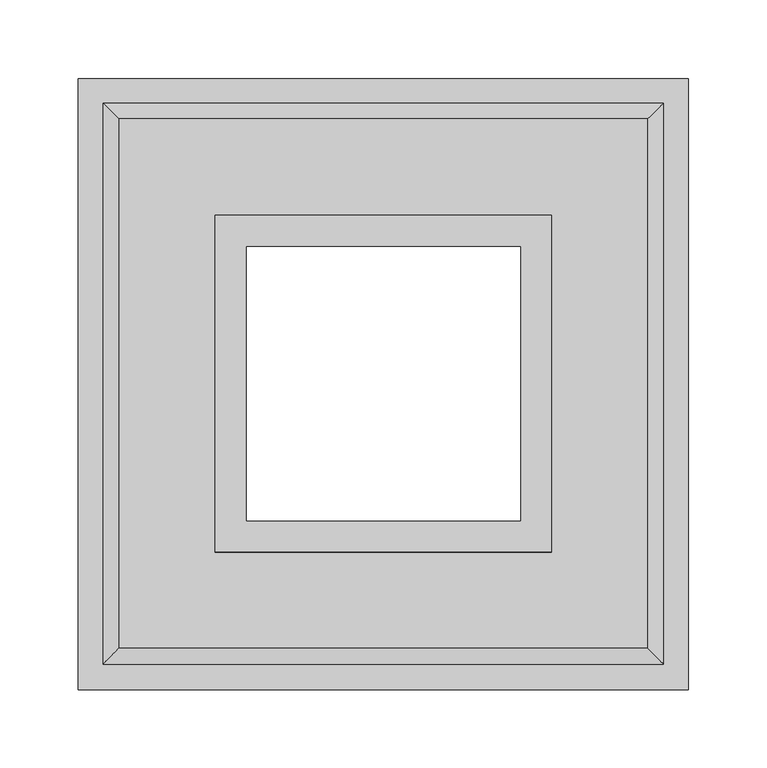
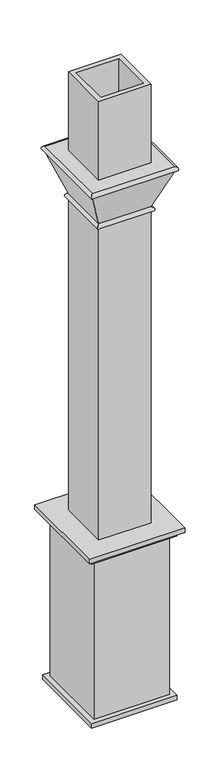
"""IFC4 building model written with IfcOpenShell, lengths in millimetres: column geometry, 构造柱外包装饰 : 构造柱外包装饰."""

from ifc_helpers import new_model, si_unit, frame, origin, place, context, project, spatial, ellipse_curve, source, transform, mapped, element, save
from ifc_brep_helpers import plane_surface, cylinder_surface, advanced_brep


def column_dc167576(model_context):
    return source(origin(), model_context, "Body", "AdvancedBrep", [
        advanced_brep(
        [(5146.6580578, -1101.483375, 2499.1446717), (5146.6580578, -1101.483375, -150.0), (5146.6580578, -1276.483375, -150.0), (5146.6580578, -1276.483375, 2499.1446717), (5166.6580578, -1081.483375, 600.0), (5166.6580578, -1081.483375, 1950.0), (5166.6580578, -1296.483375, 1950.0), (5166.6580578, -1296.483375, 600.0), (5254.1580578, -993.983375, 580.0), (5254.1580578, -993.983375, 600.0), (5254.1580578, -1383.983375, 600.0), (5254.1580578, -1383.983375, 580.0), (5234.1580578, -1013.983375, 560.0), (5234.1580578, -1013.983375, 580.0), (5234.1580578, -1363.983375, 580.0), (5234.1580578, -1363.983375, 560.0), (5214.1580578, -1033.983375, -130.0), (5214.1580578, -1033.983375, 560.0), (5214.1580578, -1343.983375, 560.0), (5214.1580578, -1343.983375, -130.0), (5234.1580578, -1013.983375, -150.0), (5234.1580578, -1013.983375, -130.0), (5234.1580578, -1363.983375, -130.0), (5234.1580578, -1363.983375, -150.0), (4971.6580578, -1276.483375, -150.0), (4971.6580578, -1276.483375, 2499.1446717), (4951.6580578, -1296.483375, 1950.0), (4951.6580578, -1296.483375, 600.0), (4864.1580578, -1383.983375, 600.0), (4864.1580578, -1383.983375, 580.0), (4884.1580578, -1363.983375, 580.0), (4884.1580578, -1363.983375, 560.0), (4904.1580578, -1343.983375, 560.0), (4904.1580578, -1343.983375, -130.0), (4884.1580578, -1363.983375, -130.0), (4884.1580578, -1363.983375, -150.0), (4971.6580578, -1101.483375, -150.0), (4971.6580578, -1101.483375, 2499.1446717), (4951.6580578, -1081.483375, 1950.0), (4951.6580578, -1081.483375, 600.0), (4864.1580578, -993.983375, 600.0), (4864.1580578, -993.983375, 580.0), (4884.1580578, -1013.983375, 580.0), (4884.1580578, -1013.983375, 560.0), (4904.1580578, -1033.983375, 560.0), (4904.1580578, -1033.983375, -130.0), (4884.1580578, -1013.983375, -130.0), (4884.1580578, -1013.983375, -150.0), (5166.6580578, -1081.483375, 2159.1446717), (5166.6580578, -1081.483375, 2499.1446717), (5166.6580578, -1296.483375, 2499.1446717), (5166.6580578, -1296.483375, 2159.1446717), (5228.2216836, -1019.9197492, 2139.1446717), (5228.2216836, -1019.9197492, 2159.1446717), (5228.2216836, -1358.0470008, 2159.1446717), (5228.2216836, -1358.0470008, 2139.1446717), (5166.6580578, -1081.483375, 1970.0), (5166.6580578, -1296.483375, 1970.0), (4951.6580578, -1296.483375, 2499.1446717), (4951.6580578, -1296.483375, 2159.1446717), (4890.094432, -1358.0470008, 2159.1446717), (4890.094432, -1358.0470008, 2139.1446717), (4951.6580578, -1296.483375, 1970.0), (4951.6580578, -1081.483375, 2499.1446717), (4951.6580578, -1081.483375, 2159.1446717), (4890.094432, -1019.9197492, 2159.1446717), (4890.094432, -1019.9197492, 2139.1446717), (4951.6580578, -1081.483375, 1970.0)],
        [
            (0, 1),
            (1, 2),
            (2, 3),
            (3, 0),
            (4, 5),
            (5, 6),
            (6, 7),
            (7, 4),
            (8, 9),
            (9, 10),
            (10, 11),
            (11, 8),
            (12, 13),
            (13, 14),
            (14, 15),
            (15, 12),
            (16, 17),
            (17, 18),
            (18, 19),
            (19, 16),
            (20, 21),
            (21, 22),
            (22, 23),
            (23, 20),
            (2, 24),
            (24, 25),
            (25, 3),
            (6, 26),
            (26, 27),
            (27, 7),
            (10, 28),
            (28, 29),
            (29, 11),
            (14, 30),
            (30, 31),
            (31, 15),
            (18, 32),
            (32, 33),
            (33, 19),
            (22, 34),
            (34, 35),
            (35, 23),
            (24, 36),
            (36, 37),
            (37, 25),
            (26, 38),
            (38, 39),
            (39, 27),
            (28, 40),
            (40, 41),
            (41, 29),
            (30, 42),
            (42, 43),
            (43, 31),
            (32, 44),
            (44, 45),
            (45, 33),
            (34, 46),
            (46, 47),
            (47, 35),
            (36, 1),
            (0, 37),
            (38, 5),
            (4, 39),
            (9, 40),
            (8, 41),
            (13, 42),
            (12, 43),
            (17, 44),
            (16, 45),
            (21, 46),
            (20, 47),
            (48, 49),
            (49, 50),
            (50, 51),
            (51, 48),
            (52, 53, ellipse_curve(frame((5228.2216836, -1019.9197492, 2149.1446717), z_axis=(0.7071067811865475, -0.7071067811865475, 0.0), x_axis=(0.7071067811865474, 0.7071067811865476, 0.0)), 14.1421356, 10.0)),
            (53, 54),
            (54, 55, ellipse_curve(frame((5228.2216836, -1358.0470008, 2149.1446717), z_axis=(0.7071067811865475, 0.7071067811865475, 0.0), x_axis=(-0.7071067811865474, 0.7071067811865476, 0.0)), 14.1421356, 10.0)),
            (55, 52),
            (56, 52),
            (55, 57),
            (57, 56),
            (5, 56, ellipse_curve(frame((5166.6580578, -1081.483375, 1960.0), z_axis=(0.7071067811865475, -0.7071067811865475, 0.0), x_axis=(0.7071067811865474, 0.7071067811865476, 0.0)), 14.1421356, 10.0)),
            (57, 6, ellipse_curve(frame((5166.6580578, -1296.483375, 1960.0), z_axis=(0.7071067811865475, 0.7071067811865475, 0.0), x_axis=(-0.7071067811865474, 0.7071067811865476, 0.0)), 14.1421356, 10.0)),
            (50, 58),
            (58, 59),
            (59, 51),
            (54, 60),
            (60, 61, ellipse_curve(frame((4890.094432, -1358.0470008, 2149.1446717), z_axis=(0.7071067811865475, -0.7071067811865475, 0.0), x_axis=(0.7071067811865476, 0.7071067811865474, 0.0)), 14.1421356, 10.0)),
            (61, 55),
            (61, 62),
            (62, 57),
            (62, 26, ellipse_curve(frame((4951.6580578, -1296.483375, 1960.0), z_axis=(0.7071067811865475, -0.7071067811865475, 0.0), x_axis=(0.7071067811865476, 0.7071067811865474, 0.0)), 14.1421356, 10.0)),
            (58, 63),
            (63, 64),
            (64, 59),
            (60, 65),
            (65, 66, ellipse_curve(frame((4890.094432, -1019.9197492, 2149.1446717), z_axis=(-0.7071067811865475, -0.7071067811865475, 0.0), x_axis=(0.7071067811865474, -0.7071067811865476, 0.0)), 14.1421356, 10.0)),
            (66, 61),
            (66, 67),
            (67, 62),
            (67, 38, ellipse_curve(frame((4951.6580578, -1081.483375, 1960.0), z_axis=(-0.7071067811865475, -0.7071067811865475, 0.0), x_axis=(0.7071067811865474, -0.7071067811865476, 0.0)), 14.1421356, 10.0)),
            (49, 63),
            (48, 64),
            (53, 65),
            (52, 66),
            (56, 67),
        ],
        [
            plane_surface(frame((5146.6580578, -1101.483375, -150.0), z_axis=(-1.0, 0.0, 0.0), x_axis=(0.0, -1.0, 0.0))),
            plane_surface(frame((5166.6580578, -1081.483375, 1950.0), z_axis=(1.0, 0.0, 0.0), x_axis=(0.0, -1.0, 0.0))),
            plane_surface(frame((5254.1580578, -993.983375, 600.0), z_axis=(1.0, 0.0, 0.0), x_axis=(0.0, -1.0, 0.0))),
            plane_surface(frame((5234.1580578, -1013.983375, 580.0), z_axis=(1.0, 0.0, 0.0), x_axis=(0.0, -1.0, 0.0))),
            plane_surface(frame((5214.1580578, -1033.983375, 560.0), z_axis=(1.0, 0.0, 0.0), x_axis=(0.0, -1.0, 0.0))),
            plane_surface(frame((5234.1580578, -1013.983375, -130.0), z_axis=(1.0, 0.0, 0.0), x_axis=(0.0, -1.0, 0.0))),
            plane_surface(frame((5146.6580578, -1276.483375, -150.0), z_axis=(0.0, 1.0, 0.0), x_axis=(-1.0, 0.0, 0.0))),
            plane_surface(frame((5166.6580578, -1296.483375, 1950.0), z_axis=(0.0, -1.0, 0.0), x_axis=(-1.0, 0.0, 0.0))),
            plane_surface(frame((5254.1580578, -1383.983375, 600.0), z_axis=(0.0, -1.0, 0.0), x_axis=(-1.0, 0.0, 0.0))),
            plane_surface(frame((5234.1580578, -1363.983375, 580.0), z_axis=(0.0, -1.0, 0.0), x_axis=(-1.0, 0.0, 0.0))),
            plane_surface(frame((5214.1580578, -1343.983375, 560.0), z_axis=(0.0, -1.0, 0.0), x_axis=(-1.0, 0.0, 0.0))),
            plane_surface(frame((5234.1580578, -1363.983375, -130.0), z_axis=(0.0, -1.0, 0.0), x_axis=(-1.0, 0.0, 0.0))),
            plane_surface(frame((4971.6580578, -1276.483375, -150.0), z_axis=(1.0, 0.0, 0.0), x_axis=(0.0, 1.0, 0.0))),
            plane_surface(frame((4951.6580578, -1296.483375, 1950.0), z_axis=(-1.0, 0.0, 0.0), x_axis=(0.0, 1.0, 0.0))),
            plane_surface(frame((4864.1580578, -1383.983375, 600.0), z_axis=(-1.0, 0.0, 0.0), x_axis=(0.0, 1.0, 0.0))),
            plane_surface(frame((4884.1580578, -1363.983375, 580.0), z_axis=(-1.0, 0.0, 0.0), x_axis=(0.0, 1.0, 0.0))),
            plane_surface(frame((4904.1580578, -1343.983375, 560.0), z_axis=(-1.0, 0.0, 0.0), x_axis=(0.0, 1.0, 0.0))),
            plane_surface(frame((4884.1580578, -1363.983375, -130.0), z_axis=(-1.0, 0.0, 0.0), x_axis=(0.0, 1.0, 0.0))),
            plane_surface(frame((4971.6580578, -1101.483375, -150.0), z_axis=(0.0, -1.0, 0.0), x_axis=(1.0, 0.0, 0.0))),
            plane_surface(frame((4951.6580578, -1081.483375, 1950.0), z_axis=(0.0, 1.0, 0.0), x_axis=(1.0, 0.0, 0.0))),
            plane_surface(frame((4951.6580578, -1081.483375, 600.0), z_axis=(0.0, 0.0, 1.0), x_axis=(1.0, 0.0, 0.0))),
            plane_surface(frame((4864.1580578, -993.983375, 600.0), z_axis=(0.0, 1.0, 0.0), x_axis=(1.0, 0.0, 0.0))),
            plane_surface(frame((4864.1580578, -993.983375, 580.0), z_axis=(0.0, 0.0, -1.0), x_axis=(1.0, 0.0, 0.0))),
            plane_surface(frame((4884.1580578, -1013.983375, 580.0), z_axis=(0.0, 1.0, 0.0), x_axis=(1.0, 0.0, 0.0))),
            plane_surface(frame((4884.1580578, -1013.983375, 560.0), z_axis=(0.0, 0.0, -1.0), x_axis=(1.0, 0.0, 0.0))),
            plane_surface(frame((4904.1580578, -1033.983375, 560.0), z_axis=(0.0, 1.0, 0.0), x_axis=(1.0, 0.0, 0.0))),
            plane_surface(frame((4904.1580578, -1033.983375, -130.0), z_axis=(0.0, 0.0, 1.0), x_axis=(1.0, 0.0, 0.0))),
            plane_surface(frame((4884.1580578, -1013.983375, -130.0), z_axis=(0.0, 1.0, 0.0), x_axis=(1.0, 0.0, 0.0))),
            plane_surface(frame((4884.1580578, -1013.983375, -150.0), z_axis=(0.0, 0.0, -1.0), x_axis=(1.0, 0.0, 0.0))),
            plane_surface(frame((5166.6580578, -1081.483375, 2499.1446717), z_axis=(1.0, 0.0, 0.0), x_axis=(0.0, -1.0, 0.0))),
            cylinder_surface(frame((5228.2216836, -1101.483375, 2149.1446717), z_axis=(0.0, 1.0, 0.0), x_axis=(1.0, 0.0, 0.0)), 10.0),
            plane_surface(frame((5228.2216836, -1019.9197492, 2139.1446717), z_axis=(0.939692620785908, 0.0, -0.34202014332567), x_axis=(0.0, -1.0, 0.0))),
            cylinder_surface(frame((5166.6580578, -1101.483375, 1960.0), z_axis=(0.0, 1.0, 0.0), x_axis=(1.0, 0.0, 0.0)), 10.0),
            plane_surface(frame((5166.6580578, -1296.483375, 2499.1446717), z_axis=(0.0, -1.0, 0.0), x_axis=(-1.0, 0.0, 0.0))),
            cylinder_surface(frame((5146.6580578, -1358.0470008, 2149.1446717), z_axis=(1.0, 0.0, 0.0), x_axis=(0.0, -1.0, 0.0)), 10.0),
            plane_surface(frame((5228.2216836, -1358.0470008, 2139.1446717), z_axis=(0.0, -0.939692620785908, -0.34202014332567), x_axis=(-1.0, 0.0, 0.0))),
            cylinder_surface(frame((5146.6580578, -1296.483375, 1960.0), z_axis=(1.0, 0.0, 0.0), x_axis=(0.0, -1.0, 0.0)), 10.0),
            plane_surface(frame((4951.6580578, -1296.483375, 2499.1446717), z_axis=(-1.0, 0.0, 0.0), x_axis=(0.0, 1.0, 0.0))),
            cylinder_surface(frame((4890.094432, -1276.483375, 2149.1446717), z_axis=(0.0, -1.0, 0.0), x_axis=(-1.0, 0.0, 0.0)), 10.0),
            plane_surface(frame((4890.094432, -1358.0470008, 2139.1446717), z_axis=(-0.939692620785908, 0.0, -0.34202014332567), x_axis=(0.0, 1.0, 0.0))),
            cylinder_surface(frame((4951.6580578, -1276.483375, 1960.0), z_axis=(0.0, -1.0, 0.0), x_axis=(-1.0, 0.0, 0.0)), 10.0),
            plane_surface(frame((4971.6580578, -1101.483375, 2499.1446717), z_axis=(0.0, 0.0, 1.0), x_axis=(1.0, 0.0, 0.0))),
            plane_surface(frame((4951.6580578, -1081.483375, 2499.1446717), z_axis=(0.0, 1.0, 0.0), x_axis=(1.0, 0.0, 0.0))),
            plane_surface(frame((4951.6580578, -1081.483375, 2159.1446717), z_axis=(0.0, 0.0, 1.0), x_axis=(1.0, 0.0, 0.0))),
            cylinder_surface(frame((4971.6580578, -1019.9197492, 2149.1446717), z_axis=(-1.0, 0.0, 0.0), x_axis=(0.0, 1.0, 0.0)), 10.0),
            plane_surface(frame((4890.094432, -1019.9197492, 2139.1446717), z_axis=(0.0, 0.939692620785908, -0.34202014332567), x_axis=(1.0, 0.0, 0.0))),
            cylinder_surface(frame((4971.6580578, -1081.483375, 1960.0), z_axis=(-1.0, 0.0, 0.0), x_axis=(0.0, 1.0, 0.0)), 10.0),
        ],
        [
            (0, [[1, 2, 3, 4]]),
            (1, [[5, 6, 7, 8]]),
            (2, [[9, 10, 11, 12]]),
            (3, [[13, 14, 15, 16]]),
            (4, [[17, 18, 19, 20]]),
            (5, [[21, 22, 23, 24]]),
            (6, [[-3, 25, 26, 27]]),
            (7, [[-7, 28, 29, 30]]),
            (8, [[-11, 31, 32, 33]]),
            (9, [[-15, 34, 35, 36]]),
            (10, [[-19, 37, 38, 39]]),
            (11, [[-23, 40, 41, 42]]),
            (12, [[-26, 43, 44, 45]]),
            (13, [[-29, 46, 47, 48]]),
            (14, [[-32, 49, 50, 51]]),
            (15, [[-35, 52, 53, 54]]),
            (16, [[-38, 55, 56, 57]]),
            (17, [[-41, 58, 59, 60]]),
            (18, [[-44, 61, -1, 62]]),
            (19, [[-47, 63, -5, 64]]),
            (20, [[65, -49, -31, -10], [-30, -48, -64, -8]]),
            (21, [[-50, -65, -9, 66]]),
            (22, [[-33, -51, -66, -12], [67, -52, -34, -14]]),
            (23, [[-53, -67, -13, 68]]),
            (24, [[-36, -54, -68, -16], [69, -55, -37, -18]]),
            (25, [[-56, -69, -17, 70]]),
            (26, [[71, -58, -40, -22], [-39, -57, -70, -20]]),
            (27, [[-59, -71, -21, 72]]),
            (28, [[-42, -60, -72, -24], [-61, -43, -25, -2]]),
            (29, [[73, 74, 75, 76]]),
            (30, [[77, 78, 79, 80]]),
            (31, [[81, -80, 82, 83]]),
            (32, [[84, -83, 85, -6]]),
            (33, [[-75, 86, 87, 88]]),
            (34, [[-79, 89, 90, 91]]),
            (35, [[-82, -91, 92, 93]]),
            (36, [[-85, -93, 94, -28]]),
            (37, [[-87, 95, 96, 97]]),
            (38, [[-90, 98, 99, 100]]),
            (39, [[-92, -100, 101, 102]]),
            (40, [[-94, -102, 103, -46]]),
            (41, [[104, -95, -86, -74], [-27, -45, -62, -4]]),
            (42, [[-96, -104, -73, 105]]),
            (43, [[106, -98, -89, -78], [-88, -97, -105, -76]]),
            (44, [[-99, -106, -77, 107]]),
            (45, [[-101, -107, -81, 108]]),
            (46, [[-103, -108, -84, -63]]),
        ],
    ),
    ])


if __name__ == "__main__":
    model = new_model("IFC4")
    model_context = context("Model", 3, world=origin())
    ifc_project = project(units=[si_unit("LENGTHUNIT", "METRE", prefix="MILLI")], contexts=[model_context])
    site = spatial("IfcSite", under=ifc_project)
    building = spatial("IfcBuilding", under=site)
    placement = place(None, origin())
    column_shape = column_dc167576(model_context)
    element("IfcColumn", 1, ObjectType="构造柱外包装饰 : 构造柱外包装饰", at=placement, inside=building, context=model_context, shape_type="MappedRepresentation", body=[
        mapped(column_shape, transform((0.0, 0.0, 0.0), x_axis=(1.0, 0.0, 0.0), y_axis=(0.0, 1.0, 0.0), z_axis=(0.0, 0.0, 1.0))),
    ])
    save(model, "model.ifc")
